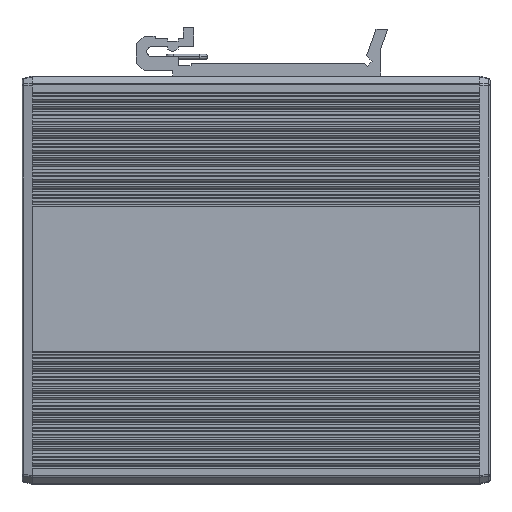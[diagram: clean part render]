
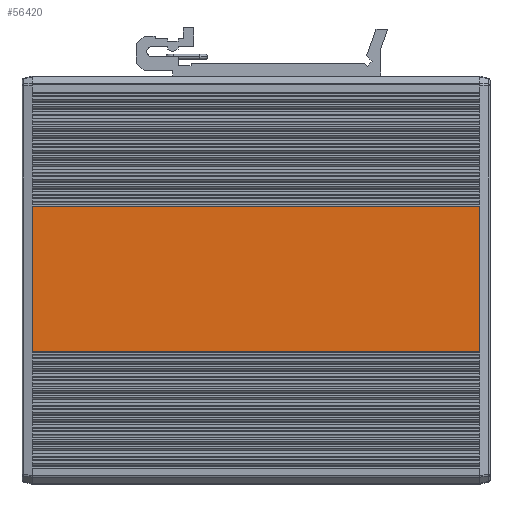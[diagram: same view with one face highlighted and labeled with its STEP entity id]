
A CAD part, left-side view. The second image highlights one B-rep face of the part: STEP entity #56420.
In plain terms, the highlighted planar face has unit normal (-1, 0, 0).
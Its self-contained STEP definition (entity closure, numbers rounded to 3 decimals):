
#6865=DIRECTION('',(0.,0.,1.));
#6866=VECTOR('',#6865,28.);
#6867=CARTESIAN_POINT('',(-20.,-43.,-19.5));
#6868=LINE('',#6867,#6866);
#6869=DIRECTION('',(0.,1.,0.));
#6870=VECTOR('',#6869,86.);
#6871=CARTESIAN_POINT('',(-20.,-43.,-19.5));
#6872=LINE('',#6871,#6870);
#6873=DIRECTION('',(0.,0.,1.));
#6874=VECTOR('',#6873,28.);
#6875=CARTESIAN_POINT('',(-20.,43.,-19.5));
#6876=LINE('',#6875,#6874);
#6877=DIRECTION('',(0.,1.,0.));
#6878=VECTOR('',#6877,86.);
#6879=CARTESIAN_POINT('',(-20.,-43.,8.5));
#6880=LINE('',#6879,#6878);
#43500=CARTESIAN_POINT('',(-20.,43.,-19.5));
#43501=CARTESIAN_POINT('',(-20.,43.,8.5));
#43502=VERTEX_POINT('',#43500);
#43503=VERTEX_POINT('',#43501);
#46964=CARTESIAN_POINT('',(-20.,-43.,-19.5));
#46965=CARTESIAN_POINT('',(-20.,-43.,8.5));
#46966=VERTEX_POINT('',#46964);
#46967=VERTEX_POINT('',#46965);
#56407=CARTESIAN_POINT('',(-20.,-43.,-22.5));
#56408=DIRECTION('',(-1.,0.,0.));
#56409=DIRECTION('',(0.,0.,1.));
#56410=AXIS2_PLACEMENT_3D('',#56407,#56408,#56409);
#56411=PLANE('',#56410);
#56413=ORIENTED_EDGE('',*,*,#56412,.F.);
#56414=ORIENTED_EDGE('',*,*,#56400,.T.);
#56415=ORIENTED_EDGE('',*,*,#55337,.T.);
#56417=ORIENTED_EDGE('',*,*,#56416,.F.);
#56418=EDGE_LOOP('',(#56413,#56414,#56415,#56417));
#56419=FACE_OUTER_BOUND('',#56418,.F.);
#56420=ADVANCED_FACE('',(#56419),#56411,.T.);
#55337=EDGE_CURVE('',#43502,#43503,#6876,.T.);
#56400=EDGE_CURVE('',#46966,#43502,#6872,.T.);
#56412=EDGE_CURVE('',#46966,#46967,#6868,.T.);
#56416=EDGE_CURVE('',#46967,#43503,#6880,.T.);
